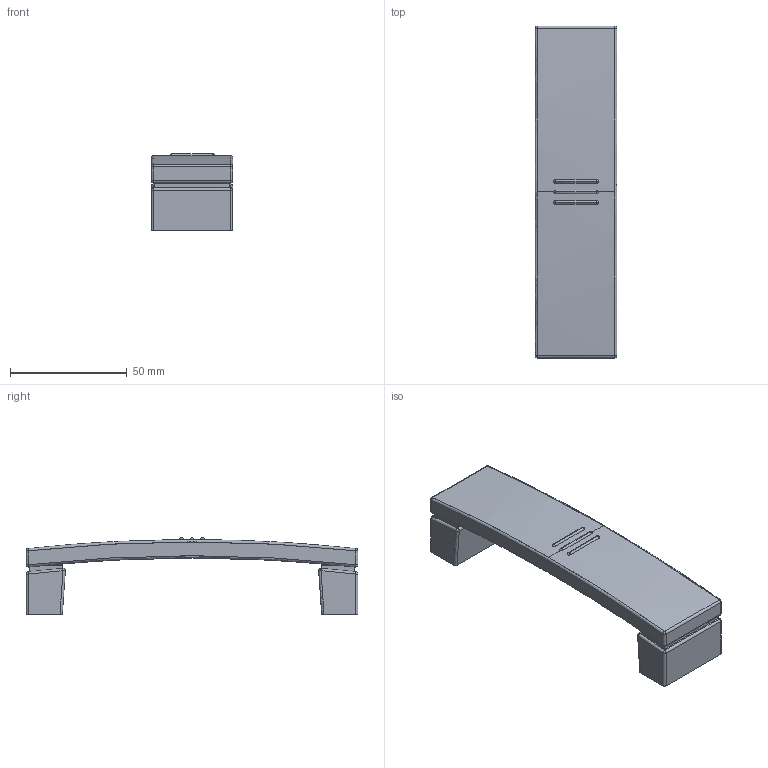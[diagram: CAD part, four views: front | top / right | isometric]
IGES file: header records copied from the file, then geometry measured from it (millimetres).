
Start section: C
Global section: file name: 096-145.igs; native system: By Siemens PLM Incorporated; preprocessor: XPlus GENERIC/IGES 16.0.42; author: Author; organization: Title; date: 20231211.092529; units: millimetre
Bounding box: 35 x 142 x 32.64 mm (x, y, z)
Surface area: 26533.1 mm2 (no closed solid volume)
Topology: 0 solids, 0 shells, 141 faces, 643 edges, 626 vertices
Faces by surface type: bspline 141
